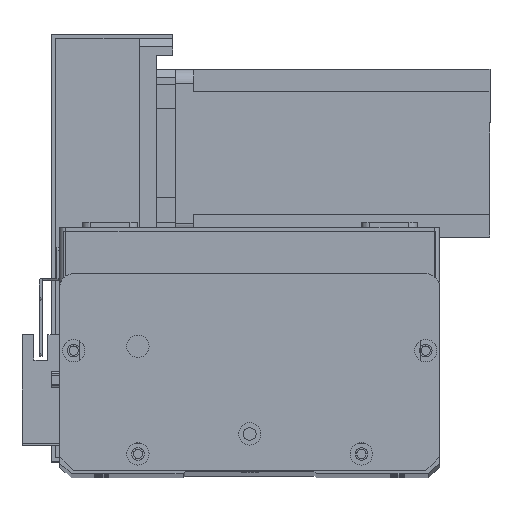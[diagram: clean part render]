
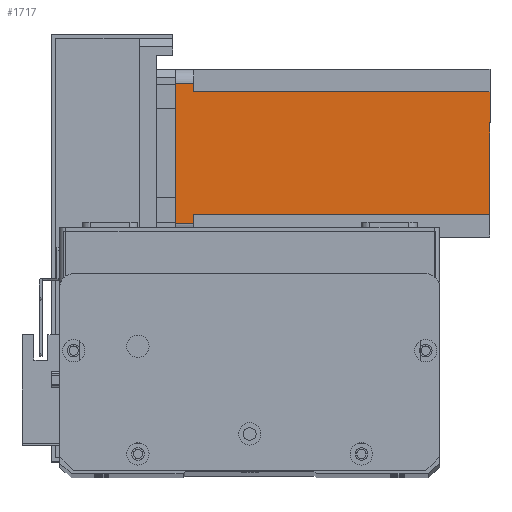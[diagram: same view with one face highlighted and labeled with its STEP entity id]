
A CAD part, top view. The second image highlights one B-rep face of the part: STEP entity #1717.
In plain terms, the highlighted planar face has unit normal (0, 0, 1) as drawn and (0, -1, 0) by its records, which use the part's own axes.
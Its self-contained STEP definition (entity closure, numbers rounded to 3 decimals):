
#170 = DIRECTION ( 'NONE',  ( 0., 0., -1. ) ) ;
#195 = ORIENTED_EDGE ( 'NONE', *, *, #22880, .F. ) ;
#656 = LINE ( 'NONE', #19370, #11980 ) ;
#1190 = CARTESIAN_POINT ( 'NONE',  ( 55., 0., 0. ) ) ;
#1417 = DIRECTION ( 'NONE',  ( 1., 0., 0. ) ) ;
#1581 = CARTESIAN_POINT ( 'NONE',  ( 55., 0., -112.5 ) ) ;
#1717 = ADVANCED_FACE ( 'NONE', ( #13640 ), #19651, .T. ) ;
#1817 = CARTESIAN_POINT ( 'NONE',  ( 52., 0., -6.5 ) ) ;
#3083 = VERTEX_POINT ( 'NONE', #17879 ) ;
#3148 = EDGE_CURVE ( 'NONE', #28407, #4259, #9062, .T. ) ;
#3297 = ORIENTED_EDGE ( 'NONE', *, *, #17536, .T. ) ;
#4003 = VERTEX_POINT ( 'NONE', #4978 ) ;
#4259 = VERTEX_POINT ( 'NONE', #12168 ) ;
#4978 = CARTESIAN_POINT ( 'NONE',  ( 8., 0., -112.5 ) ) ;
#5638 = CARTESIAN_POINT ( 'NONE',  ( 55., 0., -6.5 ) ) ;
#6736 = EDGE_CURVE ( 'NONE', #3083, #4259, #23185, .T. ) ;
#6930 = VECTOR ( 'NONE', #21249, 1000. ) ;
#6984 = VECTOR ( 'NONE', #17414, 1000. ) ;
#7841 = CARTESIAN_POINT ( 'NONE',  ( 0., 0., -112.5 ) ) ;
#7994 = CARTESIAN_POINT ( 'NONE',  ( 8., 0., -112.5 ) ) ;
#8335 = ORIENTED_EDGE ( 'NONE', *, *, #16917, .F. ) ;
#9026 = CARTESIAN_POINT ( 'NONE',  ( 52., 0., -112.5 ) ) ;
#9062 = LINE ( 'NONE', #20558, #20928 ) ;
#9795 = EDGE_LOOP ( 'NONE', ( #16371, #3297, #8335, #19895, #24756, #18510, #17184, #195 ) ) ;
#11577 = CARTESIAN_POINT ( 'NONE',  ( 8., 0., -6.5 ) ) ;
#11655 = DIRECTION ( 'NONE',  ( -1., 0., 0. ) ) ;
#11980 = VECTOR ( 'NONE', #1417, 1000. ) ;
#12168 = CARTESIAN_POINT ( 'NONE',  ( 5., 0., -6.5 ) ) ;
#12386 = LINE ( 'NONE', #7994, #18350 ) ;
#12516 = VERTEX_POINT ( 'NONE', #1190 ) ;
#13448 = VECTOR ( 'NONE', #17631, 1000. ) ;
#13640 = FACE_OUTER_BOUND ( 'NONE', #9795, .T. ) ;
#14504 = VERTEX_POINT ( 'NONE', #26886 ) ;
#15793 = DIRECTION ( 'NONE',  ( 0., -1., 0. ) ) ;
#15923 = DIRECTION ( 'NONE',  ( 0., 0., -1. ) ) ;
#16371 = ORIENTED_EDGE ( 'NONE', *, *, #28457, .T. ) ;
#16917 = EDGE_CURVE ( 'NONE', #28407, #12516, #656, .T. ) ;
#17184 = ORIENTED_EDGE ( 'NONE', *, *, #18409, .T. ) ;
#17291 = VECTOR ( 'NONE', #11655, 1000. ) ;
#17345 = CARTESIAN_POINT ( 'NONE',  ( 5., 0., 0. ) ) ;
#17414 = DIRECTION ( 'NONE',  ( 0., 0., 1. ) ) ;
#17536 = EDGE_CURVE ( 'NONE', #22527, #12516, #19669, .T. ) ;
#17631 = DIRECTION ( 'NONE',  ( 1., 0., 0. ) ) ;
#17879 = CARTESIAN_POINT ( 'NONE',  ( 8., 0., -6.5 ) ) ;
#18350 = VECTOR ( 'NONE', #19165, 1000. ) ;
#18409 = EDGE_CURVE ( 'NONE', #4003, #18735, #19608, .T. ) ;
#18510 = ORIENTED_EDGE ( 'NONE', *, *, #21990, .F. ) ;
#18735 = VERTEX_POINT ( 'NONE', #9026 ) ;
#19165 = DIRECTION ( 'NONE',  ( 0., 0., 1. ) ) ;
#19370 = CARTESIAN_POINT ( 'NONE',  ( 0., 0., 0. ) ) ;
#19608 = LINE ( 'NONE', #7841, #6930 ) ;
#19651 = PLANE ( 'NONE',  #25372 ) ;
#19669 = LINE ( 'NONE', #1581, #6984 ) ;
#19895 = ORIENTED_EDGE ( 'NONE', *, *, #3148, .T. ) ;
#20469 = DIRECTION ( 'NONE',  ( 0., 0., -1. ) ) ;
#20558 = CARTESIAN_POINT ( 'NONE',  ( 5., 0., -112.5 ) ) ;
#20928 = VECTOR ( 'NONE', #20469, 1000. ) ;
#21107 = VECTOR ( 'NONE', #170, 1000. ) ;
#21249 = DIRECTION ( 'NONE',  ( 1., 0., 0. ) ) ;
#21990 = EDGE_CURVE ( 'NONE', #4003, #3083, #12386, .T. ) ;
#22527 = VERTEX_POINT ( 'NONE', #5638 ) ;
#22880 = EDGE_CURVE ( 'NONE', #14504, #18735, #27694, .T. ) ;
#23185 = LINE ( 'NONE', #11577, #17291 ) ;
#24499 = CARTESIAN_POINT ( 'NONE',  ( 0., 0., -112.5 ) ) ;
#24756 = ORIENTED_EDGE ( 'NONE', *, *, #6736, .F. ) ;
#25335 = LINE ( 'NONE', #1817, #13448 ) ;
#25372 = AXIS2_PLACEMENT_3D ( 'NONE', #24499, #15793, #15923 ) ;
#26886 = CARTESIAN_POINT ( 'NONE',  ( 52., 0., -6.5 ) ) ;
#27066 = CARTESIAN_POINT ( 'NONE',  ( 52., 0., -112.5 ) ) ;
#27694 = LINE ( 'NONE', #27066, #21107 ) ;
#28407 = VERTEX_POINT ( 'NONE', #17345 ) ;
#28457 = EDGE_CURVE ( 'NONE', #14504, #22527, #25335, .T. ) ;
